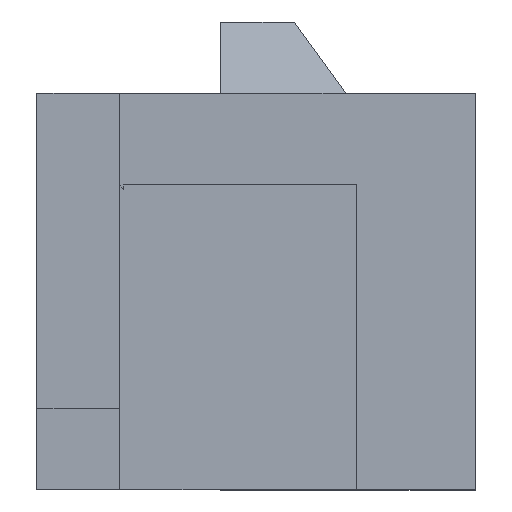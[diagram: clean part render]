
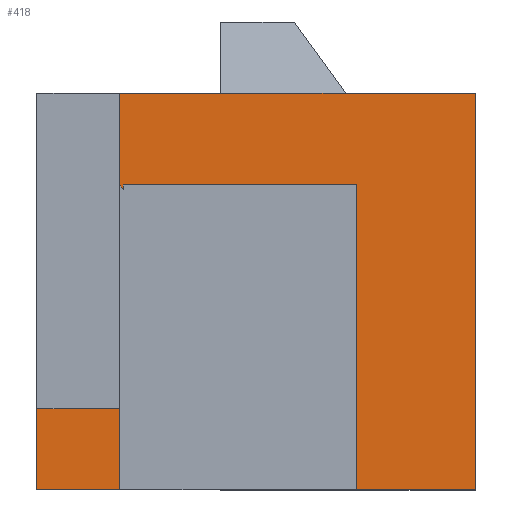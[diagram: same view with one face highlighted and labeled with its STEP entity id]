
A CAD part, left-side view. The second image highlights one B-rep face of the part: STEP entity #418.
In plain terms, the highlighted planar face has unit normal (-1, 0, 0).
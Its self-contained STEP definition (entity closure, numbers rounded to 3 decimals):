
#29=FACE_OUTER_BOUND('',#51,.T.);
#51=EDGE_LOOP('',(#325,#326,#327,#328,#329,#330,#331,#332,#333,#334));
#66=LINE('',#584,#122);
#74=LINE('',#601,#130);
#76=LINE('',#605,#132);
#78=LINE('',#609,#134);
#81=LINE('',#616,#137);
#88=LINE('',#628,#144);
#96=LINE('',#650,#152);
#101=LINE('',#659,#157);
#102=LINE('',#661,#158);
#103=LINE('',#662,#159);
#122=VECTOR('',#475,10.);
#130=VECTOR('',#489,10.);
#132=VECTOR('',#493,10.);
#134=VECTOR('',#497,10.);
#137=VECTOR('',#502,10.);
#144=VECTOR('',#511,10.);
#152=VECTOR('',#529,10.);
#157=VECTOR('',#536,10.);
#158=VECTOR('',#537,10.);
#159=VECTOR('',#538,10.);
#175=VERTEX_POINT('',#576);
#178=VERTEX_POINT('',#582);
#184=VERTEX_POINT('',#600);
#185=VERTEX_POINT('',#604);
#186=VERTEX_POINT('',#608);
#188=VERTEX_POINT('',#614);
#189=VERTEX_POINT('',#615);
#202=VERTEX_POINT('',#649);
#205=VERTEX_POINT('',#658);
#206=VERTEX_POINT('',#660);
#216=EDGE_CURVE('',#175,#178,#66,.T.);
#224=EDGE_CURVE('',#184,#175,#74,.T.);
#226=EDGE_CURVE('',#185,#184,#76,.T.);
#228=EDGE_CURVE('',#186,#185,#78,.T.);
#231=EDGE_CURVE('',#188,#189,#81,.T.);
#238=EDGE_CURVE('',#188,#186,#88,.T.);
#248=EDGE_CURVE('',#189,#202,#96,.T.);
#253=EDGE_CURVE('',#178,#205,#101,.T.);
#254=EDGE_CURVE('',#206,#205,#102,.T.);
#255=EDGE_CURVE('',#202,#206,#103,.T.);
#325=ORIENTED_EDGE('',*,*,#253,.T.);
#326=ORIENTED_EDGE('',*,*,#254,.F.);
#327=ORIENTED_EDGE('',*,*,#255,.F.);
#328=ORIENTED_EDGE('',*,*,#248,.F.);
#329=ORIENTED_EDGE('',*,*,#231,.F.);
#330=ORIENTED_EDGE('',*,*,#238,.T.);
#331=ORIENTED_EDGE('',*,*,#228,.T.);
#332=ORIENTED_EDGE('',*,*,#226,.T.);
#333=ORIENTED_EDGE('',*,*,#224,.T.);
#334=ORIENTED_EDGE('',*,*,#216,.T.);
#396=PLANE('',#456);
#418=ADVANCED_FACE('',(#29),#396,.F.);
#456=AXIS2_PLACEMENT_3D('',#657,#534,#535);
#475=DIRECTION('',(0.,0.,-1.));
#489=DIRECTION('',(0.,-1.,0.));
#493=DIRECTION('',(0.,0.,1.));
#497=DIRECTION('',(0.,-0.588,-0.809));
#502=DIRECTION('',(0.,-1.,0.));
#511=DIRECTION('',(0.,0.,-1.));
#529=DIRECTION('',(0.,0.,-1.));
#534=DIRECTION('center_axis',(1.,0.,0.));
#535=DIRECTION('ref_axis',(0.,0.,-1.));
#536=DIRECTION('',(0.,1.,0.));
#537=DIRECTION('',(0.,0.,1.));
#538=DIRECTION('',(0.,1.,0.));
#576=CARTESIAN_POINT('',(40.,20.,51.5));
#582=CARTESIAN_POINT('',(40.,20.,25.016));
#584=CARTESIAN_POINT('',(40.,20.,0.));
#600=CARTESIAN_POINT('',(40.,59.435,51.5));
#601=CARTESIAN_POINT('',(40.,44.217,51.5));
#604=CARTESIAN_POINT('',(40.,59.435,50.753));
#605=CARTESIAN_POINT('',(40.,59.435,50.));
#608=CARTESIAN_POINT('',(40.,60.,51.531));
#609=CARTESIAN_POINT('',(40.,54.929,44.551));
#614=CARTESIAN_POINT('',(40.,60.,67.));
#615=CARTESIAN_POINT('',(40.,0.,67.));
#616=CARTESIAN_POINT('',(40.,15.,67.));
#628=CARTESIAN_POINT('',(40.,60.,59.5));
#649=CARTESIAN_POINT('',(40.,0.,0.));
#650=CARTESIAN_POINT('',(40.,0.,53.25));
#657=CARTESIAN_POINT('Origin',(40.,0.,67.));
#658=CARTESIAN_POINT('',(40.,74.,25.016));
#659=CARTESIAN_POINT('',(40.,0.,25.016));
#660=CARTESIAN_POINT('',(40.,74.,0.));
#661=CARTESIAN_POINT('',(40.,74.,0.));
#662=CARTESIAN_POINT('',(40.,0.,0.));
